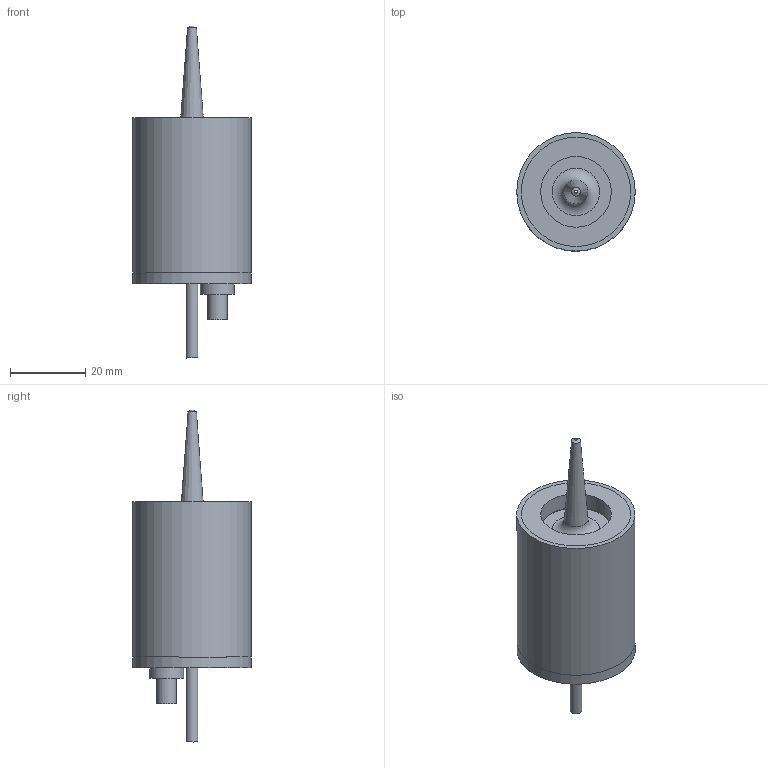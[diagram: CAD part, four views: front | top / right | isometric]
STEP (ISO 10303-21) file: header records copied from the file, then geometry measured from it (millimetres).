
FILE_DESCRIPTION((''),'2;1');
FILE_NAME('Y:\Desktop\AutoDesk\Atomizer Nozzles\LF60KT\LF60KT Atomizer Nozzle 120 Deg Tip.stp','2019-12-02T15:44:20',('Owner'),(''),'Autodesk Inventor 2013','Autodesk Inventor 2013','');
FILE_SCHEMA(('AUTOMOTIVE_DESIGN { 1 0 10303 214 1 1 1 1 }'));
Length unit declared in the file: inch
Products named in the file (16): LF60KT Atomizer Nozzle 120 Deg Tip; SON01370 LF60kHz Front Driver 120deg; AS568A-003; SON01322 60kHz Bolt; Electrode; Crystal; SON01323 60kHz Rear Driver; SON00924A  Probe Isolator; AS568A-022; SON00922C Probe Case; SON00923C CASE RING; SON00927E Atomizer Rear Cover; 1-64 screw; AS568A-009; electrical connector; SON00928C Atomizer Tube
Assembly tree (21 placements, depth 2):
  LF60KT Atomizer Nozzle 120 Deg Tip
    SON01370 LF60kHz Front Driver 120deg
    AS568A-003
    SON01322 60kHz Bolt
    Electrode  x2
    Crystal  x2
    SON01323 60kHz Rear Driver
    SON00924A  Probe Isolator
    AS568A-022  x2
    SON00922C Probe Case
    SON00923C CASE RING
    SON00927E Atomizer Rear Cover
    1-64 screw  x4
    AS568A-009
    electrical connector
    SON00928C Atomizer Tube
Bounding box: 31.5 x 31.5 x 88.29 mm (x, y, z)
Volume: 21115 mm3; surface area: 20853.3 mm2
Topology: 21 solids, 21 shells, 206 faces, 402 edges, 262 vertices
Faces by surface type: plane 106, cylinder 75, torus 13, cone 12
Full cylindrical faces by diameter (mm): 0.762 x1, 0.889 x2, 1.016 x2, 1.854 x8, 1.93 x4, 2.057 x1, 2.083 x1, 2.362 x1, 2.946 x2, 2.997 x4, 3.048 x4, 3.175 x2, 4.572 x1, 4.623 x1, 4.763 x1, 5.182 x1, 5.588 x1, 6.35 x5, 7.62 x2, 7.747 x2, 8.731 x1, 8.992 x1, 18.796 x1, 19.05 x5, 20.574 x1, 21.463 x1, 21.59 x1, 25.4 x3, 27.94 x1, 29.083 x2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
Entity records: 4022 total; most frequent: DIRECTION 718, CARTESIAN_POINT 564, ORIENTED_EDGE 410, AXIS2_PLACEMENT_3D 328, EDGE_LOOP 273, EDGE_CURVE 205, VERTEX_POINT 174, FACE_OUTER_BOUND 148
